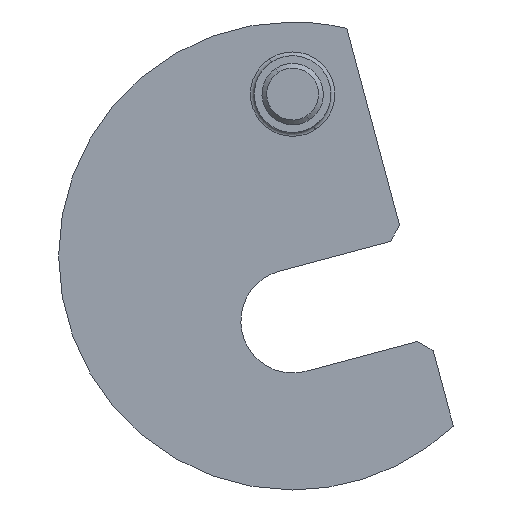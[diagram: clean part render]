
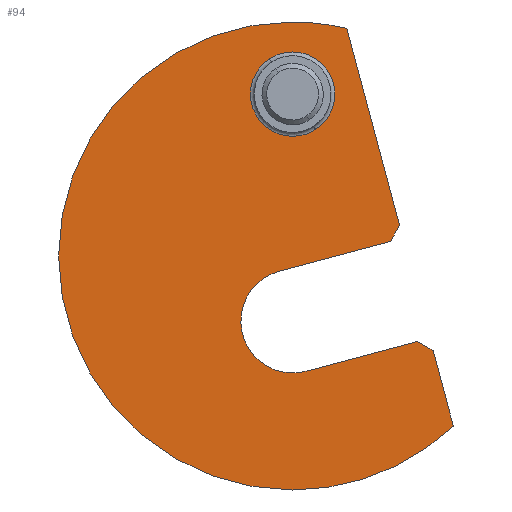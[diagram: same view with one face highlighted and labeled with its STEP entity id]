
A CAD part, front view. The second image highlights one B-rep face of the part: STEP entity #94.
In plain terms, the highlighted planar face has unit normal (0, -1, 0).
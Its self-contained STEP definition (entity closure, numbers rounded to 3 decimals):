
#33 = EDGE_CURVE ( 'NONE', #35, #326, #418, .T. ) ;
#35 = VERTEX_POINT ( 'NONE', #409 ) ;
#46 = VERTEX_POINT ( 'NONE', #454 ) ;
#47 = VERTEX_POINT ( 'NONE', #453 ) ;
#48 = ORIENTED_EDGE ( 'NONE', *, *, #135, .T. ) ;
#51 = VERTEX_POINT ( 'NONE', #450 ) ;
#56 = EDGE_LOOP ( 'NONE', ( #60, #48, #126, #132, #143, #139, #114, #99, #156, #159, #160 ) ) ;
#57 = EDGE_CURVE ( 'NONE', #51, #47, #445, .T. ) ;
#60 = ORIENTED_EDGE ( 'NONE', *, *, #57, .F. ) ;
#94 = ADVANCED_FACE ( 'NONE', ( #467, #463 ), #460, .F. ) ;
#99 = ORIENTED_EDGE ( 'NONE', *, *, #153, .T. ) ;
#107 = VERTEX_POINT ( 'NONE', #508 ) ;
#108 = EDGE_CURVE ( 'NONE', #107, #122, #507, .T. ) ;
#114 = ORIENTED_EDGE ( 'NONE', *, *, #108, .F. ) ;
#117 = EDGE_CURVE ( 'NONE', #122, #35, #545, .T. ) ;
#122 = VERTEX_POINT ( 'NONE', #541 ) ;
#126 = ORIENTED_EDGE ( 'NONE', *, *, #133, .F. ) ;
#132 = ORIENTED_EDGE ( 'NONE', *, *, #328, .F. ) ;
#133 = EDGE_CURVE ( 'NONE', #329, #46, #533, .T. ) ;
#135 = EDGE_CURVE ( 'NONE', #51, #46, #579, .T. ) ;
#136 = EDGE_CURVE ( 'NONE', #152, #179, #575, .T. ) ;
#137 = ORIENTED_EDGE ( 'NONE', *, *, #175, .T. ) ;
#138 = ORIENTED_EDGE ( 'NONE', *, *, #136, .T. ) ;
#139 = ORIENTED_EDGE ( 'NONE', *, *, #117, .F. ) ;
#140 = EDGE_LOOP ( 'NONE', ( #137, #138 ) ) ;
#143 = ORIENTED_EDGE ( 'NONE', *, *, #33, .F. ) ;
#147 = EDGE_CURVE ( 'NONE', #47, #341, #559, .T. ) ;
#148 = VERTEX_POINT ( 'NONE', #554 ) ;
#152 = VERTEX_POINT ( 'NONE', #553 ) ;
#153 = EDGE_CURVE ( 'NONE', #107, #148, #607, .T. ) ;
#154 = EDGE_CURVE ( 'NONE', #344, #148, #603, .T. ) ;
#156 = ORIENTED_EDGE ( 'NONE', *, *, #154, .F. ) ;
#159 = ORIENTED_EDGE ( 'NONE', *, *, #343, .F. ) ;
#160 = ORIENTED_EDGE ( 'NONE', *, *, #147, .F. ) ;
#175 = EDGE_CURVE ( 'NONE', #179, #152, #631, .T. ) ;
#179 = VERTEX_POINT ( 'NONE', #616 ) ;
#326 = VERTEX_POINT ( 'NONE', #891 ) ;
#328 = EDGE_CURVE ( 'NONE', #326, #329, #890, .T. ) ;
#329 = VERTEX_POINT ( 'NONE', #885 ) ;
#341 = VERTEX_POINT ( 'NONE', #927 ) ;
#343 = EDGE_CURVE ( 'NONE', #341, #344, #926, .T. ) ;
#344 = VERTEX_POINT ( 'NONE', #921 ) ;
#409 = CARTESIAN_POINT ( 'NONE',  ( 0., 0., -30.5 ) ) ;
#414 = DIRECTION ( 'NONE',  ( 0., 0., 1. ) ) ;
#415 = DIRECTION ( 'NONE',  ( 0., 1., 0. ) ) ;
#416 = CARTESIAN_POINT ( 'NONE',  ( 0., 0., 0. ) ) ;
#417 = AXIS2_PLACEMENT_3D ( 'NONE', #416, #415, #414 ) ;
#418 = CIRCLE ( 'NONE', #417, 30.5 ) ;
#442 = DIRECTION ( 'NONE',  ( -0.966, 0., -0.259 ) ) ;
#443 = VECTOR ( 'NONE', #442, 1000. ) ;
#444 = CARTESIAN_POINT ( 'NONE',  ( -1.747, 0., -1.98 ) ) ;
#445 = LINE ( 'NONE', #444, #443 ) ;
#450 = CARTESIAN_POINT ( 'NONE',  ( 12.742, 0., 1.902 ) ) ;
#453 = CARTESIAN_POINT ( 'NONE',  ( -1.747, 0., -1.98 ) ) ;
#454 = CARTESIAN_POINT ( 'NONE',  ( 13.944, 0., 3.984 ) ) ;
#460 = PLANE ( 'NONE',  #462 ) ;
#461 = CARTESIAN_POINT ( 'NONE',  ( 0., 0., 0. ) ) ;
#462 = AXIS2_PLACEMENT_3D ( 'NONE', #461, #525, #524 ) ;
#463 = FACE_BOUND ( 'NONE', #140, .T. ) ;
#467 = FACE_OUTER_BOUND ( 'NONE', #56, .T. ) ;
#504 = DIRECTION ( 'NONE',  ( 0.259, 0., -0.966 ) ) ;
#505 = VECTOR ( 'NONE', #504, 1000. ) ;
#506 = CARTESIAN_POINT ( 'NONE',  ( 17.878, 0., -10.698 ) ) ;
#507 = LINE ( 'NONE', #506, #505 ) ;
#508 = CARTESIAN_POINT ( 'NONE',  ( 18.318, 0., -12.34 ) ) ;
#524 = DIRECTION ( 'NONE',  ( 0., 0., 1. ) ) ;
#525 = DIRECTION ( 'NONE',  ( 0., 1., 0. ) ) ;
#530 = DIRECTION ( 'NONE',  ( 0.259, 0., -0.966 ) ) ;
#531 = VECTOR ( 'NONE', #530, 1000. ) ;
#532 = CARTESIAN_POINT ( 'NONE',  ( 7.061, 0., 29.671 ) ) ;
#533 = LINE ( 'NONE', #532, #531 ) ;
#541 = CARTESIAN_POINT ( 'NONE',  ( 20.951, 0., -22.166 ) ) ;
#542 = DIRECTION ( 'NONE',  ( 0., 0., 1. ) ) ;
#543 = DIRECTION ( 'NONE',  ( 0., 1., 0. ) ) ;
#544 = AXIS2_PLACEMENT_3D ( 'NONE', #550, #543, #542 ) ;
#545 = CIRCLE ( 'NONE', #544, 30.5 ) ;
#550 = CARTESIAN_POINT ( 'NONE',  ( 0., 0., 0. ) ) ;
#553 = CARTESIAN_POINT ( 'NONE',  ( 0., 0., 26.6 ) ) ;
#554 = CARTESIAN_POINT ( 'NONE',  ( 16.236, 0., -11.138 ) ) ;
#555 = DIRECTION ( 'NONE',  ( 0., 0., 1. ) ) ;
#556 = DIRECTION ( 'NONE',  ( 0., -1., 0. ) ) ;
#557 = CARTESIAN_POINT ( 'NONE',  ( 0., 0., -8.5 ) ) ;
#558 = AXIS2_PLACEMENT_3D ( 'NONE', #557, #556, #555 ) ;
#559 = CIRCLE ( 'NONE', #558, 6.75 ) ;
#571 = DIRECTION ( 'NONE',  ( 0., 0., 1. ) ) ;
#572 = DIRECTION ( 'NONE',  ( 0., 1., 0. ) ) ;
#573 = CARTESIAN_POINT ( 'NONE',  ( 0., 0., 21.1 ) ) ;
#574 = AXIS2_PLACEMENT_3D ( 'NONE', #573, #572, #571 ) ;
#575 = CIRCLE ( 'NONE', #574, 5.5 ) ;
#576 = DIRECTION ( 'NONE',  ( 0.5, 0., 0.866 ) ) ;
#577 = VECTOR ( 'NONE', #576, 1000. ) ;
#578 = CARTESIAN_POINT ( 'NONE',  ( 12.742, 0., 1.902 ) ) ;
#579 = LINE ( 'NONE', #578, #577 ) ;
#600 = DIRECTION ( 'NONE',  ( 0.966, 0., 0.259 ) ) ;
#601 = VECTOR ( 'NONE', #600, 1000. ) ;
#602 = CARTESIAN_POINT ( 'NONE',  ( 1.747, 0., -15.02 ) ) ;
#603 = LINE ( 'NONE', #602, #601 ) ;
#604 = DIRECTION ( 'NONE',  ( -0.866, 0., 0.5 ) ) ;
#605 = VECTOR ( 'NONE', #604, 1000. ) ;
#606 = CARTESIAN_POINT ( 'NONE',  ( 18.318, 0., -12.34 ) ) ;
#607 = LINE ( 'NONE', #606, #605 ) ;
#616 = CARTESIAN_POINT ( 'NONE',  ( 0., 0., 15.6 ) ) ;
#628 = DIRECTION ( 'NONE',  ( 0., 0., 1. ) ) ;
#629 = DIRECTION ( 'NONE',  ( 0., 1., 0. ) ) ;
#630 = AXIS2_PLACEMENT_3D ( 'NONE', #635, #629, #628 ) ;
#631 = CIRCLE ( 'NONE', #630, 5.5 ) ;
#635 = CARTESIAN_POINT ( 'NONE',  ( 0., 0., 21.1 ) ) ;
#885 = CARTESIAN_POINT ( 'NONE',  ( 7.061, 0., 29.671 ) ) ;
#886 = DIRECTION ( 'NONE',  ( 0., 0., 1. ) ) ;
#887 = DIRECTION ( 'NONE',  ( 0., 1., 0. ) ) ;
#888 = CARTESIAN_POINT ( 'NONE',  ( 0., 0., 0. ) ) ;
#889 = AXIS2_PLACEMENT_3D ( 'NONE', #888, #887, #886 ) ;
#890 = CIRCLE ( 'NONE', #889, 30.5 ) ;
#891 = CARTESIAN_POINT ( 'NONE',  ( 0., 0., 30.5 ) ) ;
#921 = CARTESIAN_POINT ( 'NONE',  ( 1.747, 0., -15.02 ) ) ;
#922 = DIRECTION ( 'NONE',  ( 0., 0., 1. ) ) ;
#923 = DIRECTION ( 'NONE',  ( 0., -1., 0. ) ) ;
#924 = CARTESIAN_POINT ( 'NONE',  ( 0., 0., -8.5 ) ) ;
#925 = AXIS2_PLACEMENT_3D ( 'NONE', #924, #923, #922 ) ;
#926 = CIRCLE ( 'NONE', #925, 6.75 ) ;
#927 = CARTESIAN_POINT ( 'NONE',  ( 0., 0., -15.25 ) ) ;
